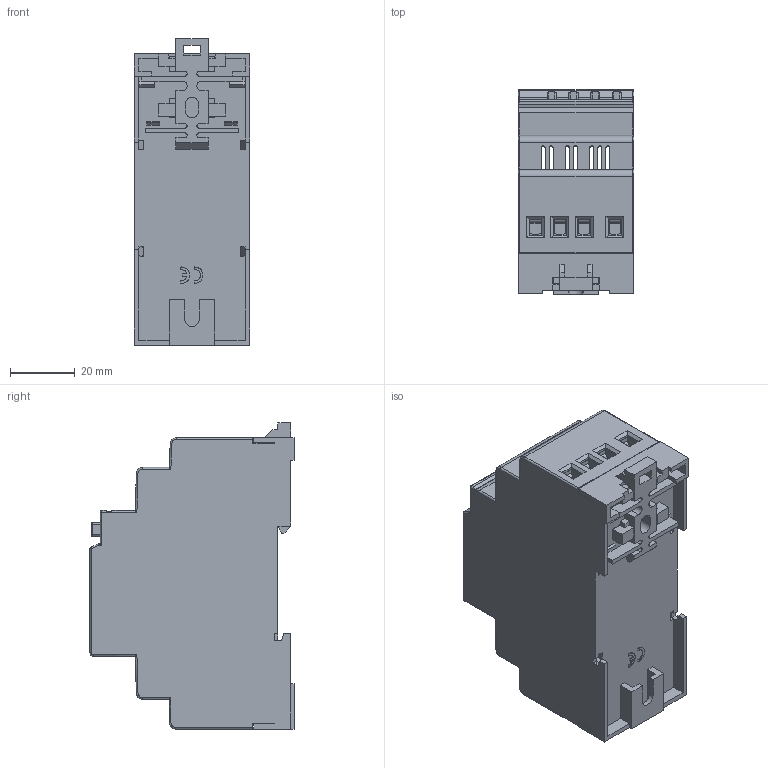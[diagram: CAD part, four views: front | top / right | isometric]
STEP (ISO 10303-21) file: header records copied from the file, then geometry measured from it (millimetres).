
FILE_DESCRIPTION(/* description */ ('Unknown'),/* implementation_level */ '2;1');
FILE_NAME(/* name */ '1221',/* time_stamp */ '2016-12-21T10:16:47+01:00',/* author */ ('Unknown'),/* organization */ ('Unknown'),/* preprocessor_version */ 'ST-DEVELOPER v16.7',/* originating_system */ 'DEX',/* authorisation */ $);
FILE_SCHEMA (('AUTOMOTIVE_DESIGN {1 0 10303 214 3 1 1}'));
Products named in the file (3): 1221; top; top0b
Assembly tree (2 placements, depth 3):
  1221
    top
      top0b
Bounding box: 35.8 x 63 x 94.55 mm (x, y, z)
Volume: 346.3 mm3; surface area: 31877.4 mm2
Topology: 4 solids, 1239 shells, 1266 faces, 6476 edges, 6452 vertices
Faces by surface type: plane 783, cylinder 311, torus 69, bspline 49, cone 30, sphere 24
Full cylindrical faces by diameter (mm): 4.5 x4
Entity records: 77515 total; most frequent: CARTESIAN_POINT 18014, DIRECTION 9804, ORIENTED_EDGE 6524, EDGE_CURVE 6468, VERTEX_POINT 6452, LINE 4638, VECTOR 4638, AXIS2_PLACEMENT_3D 2583
